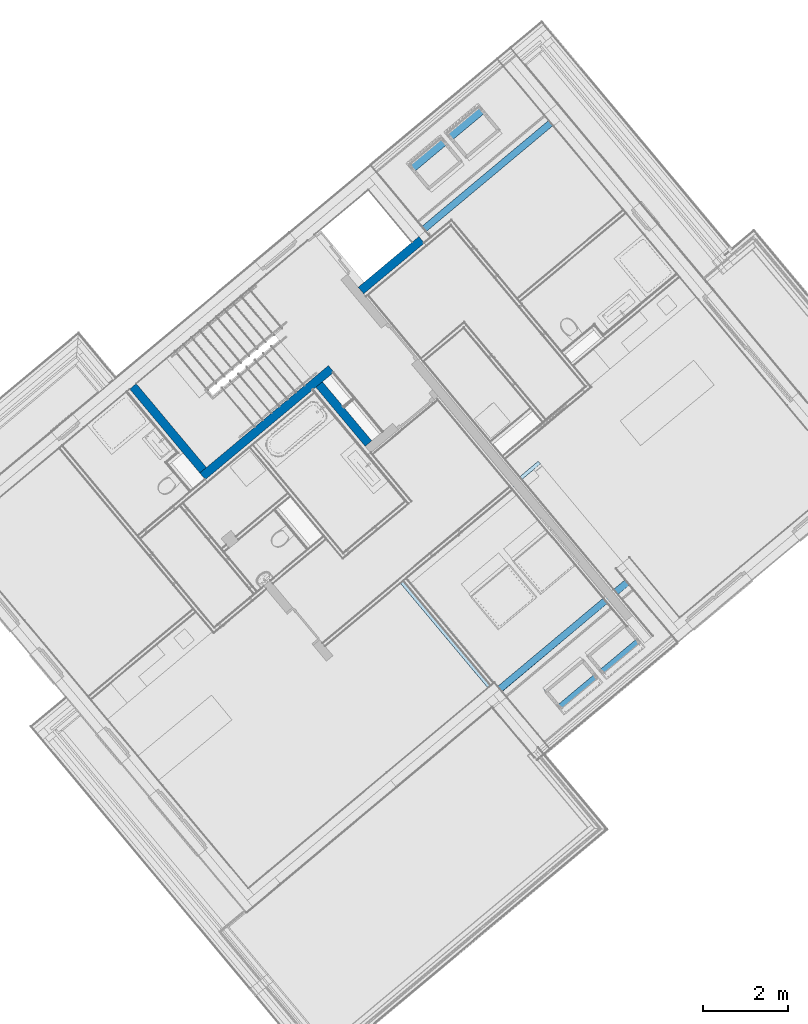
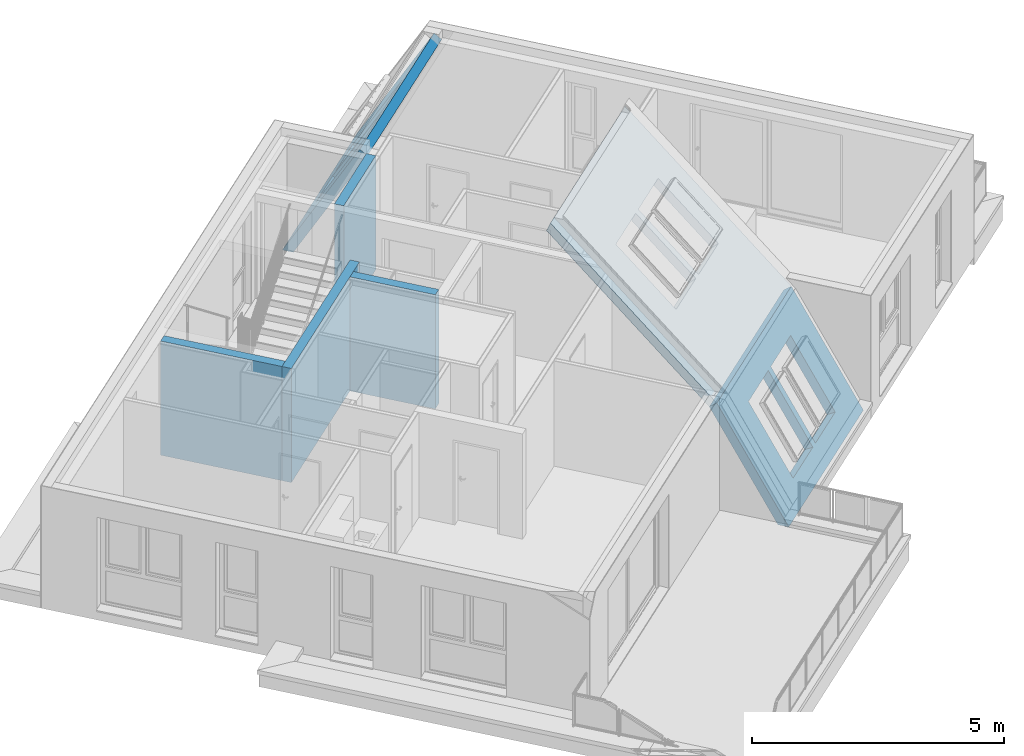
# One storey, part 10 of 61: 4 walls, 3 roofs.
"""IFC4 building model written with IfcOpenShell, lengths in metres."""

from ifc_helpers import new_model, entity, si_unit, converted_unit, derived_unit, direction, frame, origin_with_axes, place, context, subcontext, project, spatial, polygons, material, type_object, element, save


model = new_model("IFC4")

# Units and contexts
model_context = context("Model", 3, precision=1e-05, world=origin_with_axes(), true_north=direction((0.0, 1.0)))
body_context = subcontext(model_context, "Body", "Model", "MODEL_VIEW")
ifc_project = project(units=[si_unit("LENGTHUNIT", "METRE"), si_unit("AREAUNIT", "SQUARE_METRE"), si_unit("VOLUMEUNIT", "CUBIC_METRE"), converted_unit("PLANEANGLEUNIT", "DEGREE", entity("IfcPlaneAngleMeasure", 0.0174532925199), si_unit("PLANEANGLEUNIT", "RADIAN"), dimensions=[0, 0, 0, 0, 0, 0, 0]), converted_unit("TIMEUNIT", "Year", entity("IfcTimeMeasure", 31556926.0), si_unit("TIMEUNIT", "SECOND"), dimensions=[0, 0, 1, 0, 0, 0, 0]), si_unit("MASSUNIT", "GRAM", prefix="KILO"), si_unit("THERMODYNAMICTEMPERATUREUNIT", "DEGREE_CELSIUS"), si_unit("LUMINOUSINTENSITYUNIT", "LUMEN"), si_unit("ENERGYUNIT", "JOULE", prefix="MEGA"), derived_unit("THERMALCONDUCTANCEUNIT", [(si_unit("POWERUNIT", "WATT"), 1), (si_unit("LENGTHUNIT", "METRE"), -1), (si_unit("THERMODYNAMICTEMPERATUREUNIT", "KELVIN"), -1)]), derived_unit("SPECIFICHEATCAPACITYUNIT", [(si_unit("ENERGYUNIT", "JOULE"), 1), (si_unit("MASSUNIT", "GRAM", prefix="KILO"), -1), (si_unit("THERMODYNAMICTEMPERATUREUNIT", "KELVIN"), -1)]), derived_unit("MASSDENSITYUNIT", [(si_unit("MASSUNIT", "GRAM", prefix="KILO"), 1), (si_unit("VOLUMEUNIT", "CUBIC_METRE"), -1)])], contexts=[model_context])

# Site, building, storey
site_placement = place(None, frame((-0.00153261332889, -0.00661245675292, 0.0), z_axis=(0.0, 0.0, 1.0), x_axis=(1.0, 0.0, 0.0)))
site = spatial("IfcSite", under=ifc_project, at=site_placement, Name="Gelände", CompositionType="ELEMENT")
building_placement = place(site_placement, origin_with_axes())
building = spatial("IfcBuilding", under=site, at=building_placement, Name="Gebäude", CompositionType="ELEMENT")
storey_placement = place(building_placement, frame((0.0, 0.0, 5.7), z_axis=(0.0, 0.0, 1.0), x_axis=(1.0, 0.0, 0.0)))
storey = spatial("IfcBuildingStorey", under=building, at=storey_placement, Name="DG1", CompositionType="ELEMENT", Elevation=5.7)

# Walls
ifc_material_1 = material(Name="Stahlbeton Wand")
wall_type = type_object("IfcWallType", Name="Stahlbeton Wand 200", PredefinedType="NOTDEFINED")
wall_1_placement = place(storey_placement, frame((0.665404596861, 22.952518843, 0.0), z_axis=(0.0, 0.0, 1.0), x_axis=(-0.767365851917, -0.641209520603, 0.0)))
element("IfcWall", 1, at=wall_1_placement, inside=storey, type_object=wall_type, material=ifc_material_1, Name="Wand-003", PredefinedType="NOTDEFINED", context=body_context, shape_type="Tessellation", body=[
    polygons([(3.92113772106, 0.2, 0.0), (3.92113772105, 0.0, 0.0), (0.0, 0.0, 0.0), (0.0, 0.2, 0.0), (3.92113772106, 0.2, 2.76), (3.92113772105, 0.0, 2.76), (0.0, 0.0, 2.76), (0.0, 0.2, 2.76)], [[[1, 2, 3, 4]], [[2, 1, 5, 6]], [[2, 6, 7, 3]], [[8, 4, 3, 7]], [[5, 1, 4, 8]], [[6, 5, 8, 7]]], closed=True),
])
wall_2_placement = place(storey_placement, frame((-2.19006942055, 20.5664899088, 0.0), z_axis=(0.0, 0.0, 1.0), x_axis=(-0.641209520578, 0.767365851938, 0.0)))
element("IfcWall", 2, at=wall_2_placement, inside=storey, type_object=wall_type, material=ifc_material_1, Name="Wand-003", PredefinedType="NOTDEFINED", context=body_context, shape_type="Tessellation", body=[
    polygons([(2.56037085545, 0.2, 0.0), (2.56037085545, 0.0, 0.0), (0.0, 0.0, 0.0), (0.0, 0.2, 0.0), (2.56037085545, 0.2, 2.76), (2.56037085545, 0.0, 2.76), (0.0, 0.0, 2.76), (0.0, 0.2, 2.76)], [[[1, 2, 3, 4]], [[2, 1, 5, 6]], [[2, 6, 7, 3]], [[8, 4, 3, 7]], [[5, 1, 4, 8]], [[6, 5, 8, 7]]], closed=True),
])
wall_3_placement = place(storey_placement, frame((1.65427756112, 20.9103763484, 0.0), z_axis=(0.0, 0.0, 1.0), x_axis=(-0.641209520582, 0.767365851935, 0.0)))
element("IfcWall", 3, at=wall_3_placement, inside=storey, type_object=wall_type, material=ifc_material_1, Name="Wand-003", PredefinedType="NOTDEFINED", context=body_context, shape_type="Tessellation", body=[
    polygons([(0.199905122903, -0.2, 2.76), (2.00114517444, -0.2, 2.76), (2.00114517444, 0.0, 2.76), (0.200000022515, 0.0, 2.76), (0.199905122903, -0.2, 0.0), (2.00114517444, -0.2, 0.0), (2.00114517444, 0.0, 0.0), (0.200000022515, 0.0, 0.0)], [[[1, 2, 3, 4]], [[5, 6, 2, 1]], [[7, 3, 2, 6]], [[4, 3, 7, 8]], [[8, 5, 1, 4]], [[8, 7, 6, 5]]], closed=True),
])

# Space
space_1_placement = place(storey_placement, frame((2.62932542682, 25.8435926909, 0.0), z_axis=(0.0, 0.0, 1.0), x_axis=(-0.641209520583, 0.767365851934, 0.0)))
space_1 = spatial("IfcSpace", under=storey, at=space_1_placement, CompositionType="ELEMENT", PredefinedType="NOTDEFINED")

# Wall
wall_4_placement = place(space_1_placement, frame((3.84925868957e-10, 1.65049975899, 0.0), z_axis=(0.0, 0.0, 1.0), x_axis=(1.72725482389e-05, -0.999999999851, 0.0)))
element("IfcWall", 4, at=wall_4_placement, inside=space_1, type_object=wall_type, material=ifc_material_1, Name="Wand-003", PredefinedType="NOTDEFINED", context=body_context, shape_type="Tessellation", body=[
    polygons([(1.85049630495, -0.2, 2.76), (1.85049975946, 0.0, 2.76), (0.000830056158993, 0.0, 2.76), (0.000814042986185, -0.2, 2.76), (1.85049630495, -0.2, 0.0), (1.85049975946, 0.0, 0.0), (0.000830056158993, 0.0, 0.0), (0.000814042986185, -0.2, 0.0)], [[[1, 2, 3, 4]], [[2, 1, 5, 6]], [[2, 6, 7, 3]], [[8, 4, 3, 7]], [[5, 1, 4, 8]], [[6, 5, 8, 7]]], closed=True),
])

# Space
space_2_placement = place(storey_placement, frame((12.8063322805, 20.3315828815, 0.22), z_axis=(0.0, 0.0, 1.0), x_axis=(-0.641209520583, 0.767365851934, 0.0)))
space_2 = spatial("IfcSpace", under=storey, at=space_2_placement, CompositionType="ELEMENT", PredefinedType="NOTDEFINED")

# Roofs
ifc_material_2 = material(Name="Stahlbeton Decke")
roof_type_1 = type_object("IfcRoofType", Name="Stahlbeton Decke 200", PredefinedType="NOTDEFINED")
roof_1_placement = place(space_2_placement, frame((0.992548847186, 5.5276468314, 1.78285219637), z_axis=(0.0, 0.0, 1.0), x_axis=(-0.000552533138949, 0.999999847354, 0.0)))
element("IfcRoof", 5, at=roof_1_placement, inside=space_2, type_object=roof_type_1, material=ifc_material_2, Name="Dach-001", PredefinedType="NOTDEFINED", context=body_context, shape_type="Tessellation", body=[
    polygons([(-0.22420921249, -0.34536207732, 0.628204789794), (-0.225179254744, -3.85430507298, 4.13714778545), (4.08041501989, -3.8543050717, 4.13714778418), (4.08173405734, -0.345362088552, 0.628204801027), (0.570474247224, -2.86716746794, 3.15001018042), (0.570474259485, -1.59721797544, 1.88006068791), (1.71047424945, -1.5972180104, 1.88006072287), (1.71047431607, -2.86716746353, 3.150010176), (1.86045628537, -2.86949198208, 3.15233469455), (1.86045628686, -1.59954246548, 1.88238517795), (3.00045622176, -1.59954247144, 1.88238518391), (3.00045622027, -2.86949198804, 3.15233470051), (-0.224214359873, -0.505401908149, 0.505401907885), (-0.22516306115, -3.9371477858, 3.93714778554), (4.08043703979, -3.93714778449, 3.93714778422), (4.08172705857, -0.505401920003, 0.505401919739), (0.570474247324, -3.0085888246, 3.00858882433), (0.570474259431, -1.73863933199, 1.73863933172), (1.71047424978, -1.73863936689, 1.73863936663), (1.71047431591, -3.00858881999, 3.00858881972), (1.86045628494, -3.01091333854, 3.01091333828), (1.86045628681, -1.74096382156, 1.7409638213), (3.00045622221, -1.74096382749, 1.74096382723), (3.00045622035, -3.01091334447, 3.0109133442)], [[[1, 2, 3, 4], [5, 6, 7, 8], [9, 10, 11, 12]], [[2, 1, 13, 14]], [[3, 2, 14, 15]], [[4, 3, 15, 16]], [[1, 4, 16, 13]], [[6, 5, 17, 18]], [[7, 6, 18, 19]], [[8, 7, 19, 20]], [[5, 8, 20, 17]], [[10, 9, 21, 22]], [[11, 10, 22, 23]], [[12, 11, 23, 24]], [[9, 12, 24, 21]], [[14, 13, 16, 15], [22, 21, 24, 23], [18, 17, 20, 19]]], closed=True),
])
roof_2_placement = place(space_2_placement, frame((-2.34898966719, 5.52764683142, -4.37484126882), z_axis=(0.0, 0.0, 1.0), x_axis=(-0.000552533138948, 0.999999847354, 0.0)))
element("IfcRoof", 6, at=roof_2_placement, inside=space_2, type_object=roof_type_1, material=ifc_material_2, Name="Dach-001", PredefinedType="NOTDEFINED", context=body_context, shape_type="Tessellation", body=[
    polygons([(4.08029558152, -2.16785861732, 4.15484126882), (-0.221142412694, -2.16785861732, 4.15484126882), (-0.220992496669, -3.68692134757, 6.7859350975), (4.08033476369, -3.68690005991, 6.78589822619), (1.8059041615, -2.43875950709, 4.62405537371), (1.80590415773, -3.37875949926, 6.25218311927), (0.665735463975, -3.37875949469, 6.25218311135), (0.665904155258, -2.43875950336, 4.62405536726), (3.09218451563, -3.37875950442, 6.2521831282), (1.95590415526, -3.37875949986, 6.25218312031), (1.95590415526, -2.43875950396, 4.6240553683), (3.09590415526, -2.43875950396, 4.6240553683), (-0.221136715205, -2.39879872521, 4.15484126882), (4.08029707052, -2.39879872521, 4.15484126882), (-0.220993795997, -3.84696117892, 6.66313221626), (4.08033442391, -3.84693989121, 6.66309534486), (1.80590415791, -3.55196457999, 6.15218311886), (1.80590416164, -2.61196458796, 4.52405537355), (0.665735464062, -3.5519645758, 6.1521831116), (0.665904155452, -2.61196458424, 4.5240553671), (1.95590415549, -3.55196458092, 6.15218312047), (3.09218451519, -3.55196458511, 6.15218312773), (1.95590415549, -2.6119645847, 4.52405536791), (3.09590415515, -2.6119645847, 4.52405536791)], [[[1, 2, 3, 4], [5, 6, 7, 8], [9, 10, 11, 12]], [[13, 2, 1, 14]], [[2, 13, 15, 3]], [[16, 4, 3, 15]], [[14, 1, 4, 16]], [[17, 6, 5, 18]], [[19, 7, 6, 17]], [[20, 8, 7, 19]], [[18, 5, 8, 20]], [[21, 10, 9, 22]], [[23, 11, 10, 21]], [[24, 12, 11, 23]], [[22, 9, 12, 24]], [[13, 14, 16, 15], [24, 23, 21, 22], [20, 19, 17, 18]]], closed=True),
])
ifc_material_3 = material(Name="Stahlbeton Dach")
roof_type_2 = type_object("IfcRoofType", Name="Stahlbeton Dach 200", PredefinedType="NOTDEFINED")
roof_3_placement = place(storey_placement, frame((1.56920929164, 27.6332128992, -0.88392263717), z_axis=(0.0, 0.0, 1.0), x_axis=(0.767365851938, 0.641209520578, 0.0)))
element("IfcRoof", 7, at=roof_3_placement, inside=storey, type_object=roof_type_2, material=ifc_material_3, Name="Dach-001", PredefinedType="NOTDEFINED", context=body_context, shape_type="Tessellation", body=[
    polygons([(-0.134171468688, -2.07450532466, 3.59314862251), (-0.134032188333, -0.510332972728, 0.88392263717), (4.14596342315, -0.510332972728, 0.88392263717), (4.14596339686, -2.07395726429, 3.59219935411), (2.90571264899, -0.82377072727, 1.42681275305), (1.90571264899, -0.82377072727, 1.42681275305), (1.90571264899, -1.86504980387, 3.23036101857), (2.90571264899, -1.86504980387, 3.23036101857), (1.75572941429, -1.8658575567, 3.23176008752), (1.75572941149, -0.821529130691, 1.42293019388), (0.755729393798, -0.821529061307, 1.42293007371), (0.755729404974, -1.62152909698, 2.80857078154), (0.756269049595, -1.86585756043, 3.23176009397), (-0.134172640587, -1.91446549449, 3.71595150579), (-0.134027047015, -0.279392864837, 0.88392263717), (4.14596342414, -0.279392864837, 0.88392263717), (4.14596339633, -1.91391743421, 3.71500223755), (2.90571264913, -0.650565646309, 1.52681275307), (1.90571264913, -0.650565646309, 1.52681275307), (1.90571264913, -1.69184472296, 3.33036101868), (2.90571264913, -1.69184472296, 3.33036101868), (1.75572941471, -1.69265247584, 3.33176008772), (1.75572941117, -0.648324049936, 1.52293019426), (0.755729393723, -0.648323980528, 1.52293007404), (0.755729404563, -1.44832401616, 2.90857078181), (0.756269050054, -1.69265247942, 3.33176009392)], [[[1, 2, 3, 4], [5, 6, 7, 8], [9, 10, 11, 12, 13]], [[14, 15, 2, 1]], [[15, 16, 3, 2]], [[4, 3, 16, 17]], [[4, 17, 14, 1]], [[5, 18, 19, 6]], [[6, 19, 20, 7]], [[7, 20, 21, 8]], [[8, 21, 18, 5]], [[9, 22, 23, 10]], [[10, 23, 24, 11]], [[11, 24, 25, 12]], [[12, 25, 26, 13]], [[13, 26, 22, 9]], [[17, 16, 15, 14], [25, 24, 23, 22, 26], [21, 20, 19, 18]]], closed=True),
])

save(model, "model.ifc")
